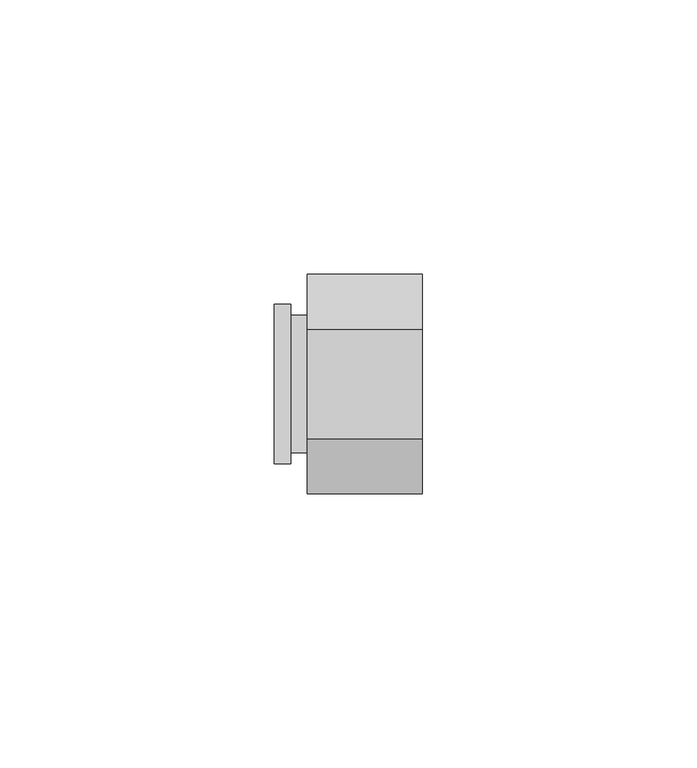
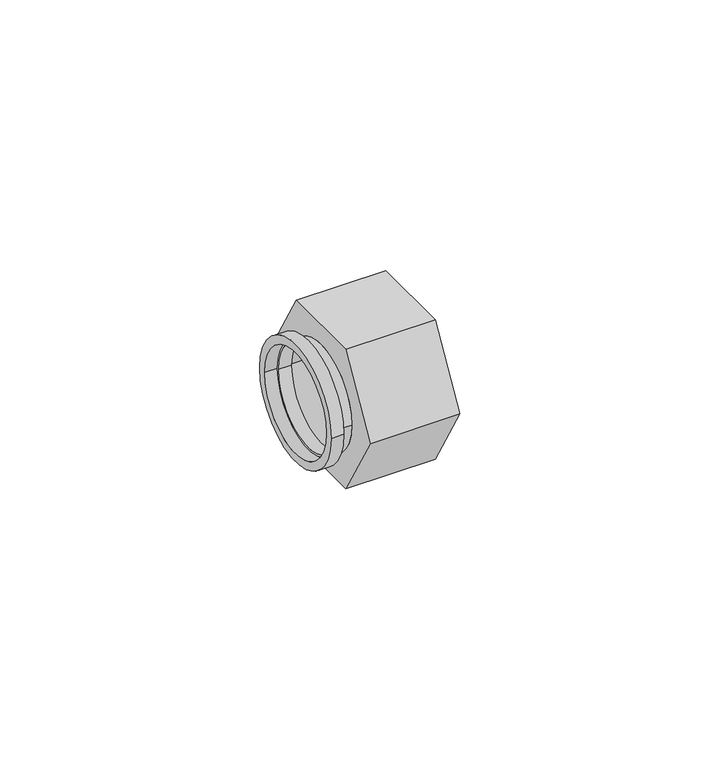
"""IFC4 building model written with IfcOpenShell, lengths in millimetres: pipe fitting geometry, БИР ПЕКС_КМП_Соединитель_Резьба_Наружная : Соединитель прямой с наружной резьбой_КМП."""

from ifc_helpers import new_model, si_unit, point, frame, origin, origin_2d, place, context, project, spatial, polyline, circle_curve, trimmed, segment, composite_curve, outline, extrude, source, transform, mapped, element, save


def pipe_fitting_011efccd(model_context):
    return source(origin(), model_context, "Body", "SweptSolid", [
        extrude(outline(polyline([(-10.0, -17.3205081), (-20.0, 0.0), (-10.0, 17.3205081), (10.0, 17.3205081), (20.0, 0.0), (10.0, -17.3205081), (-10.0, -17.3205081)]), holes=[composite_curve([segment(trimmed(circle_curve(origin_2d(), 12.5), [point((-12.5, 0.0))], [point((12.5, 0.0))], True, "CARTESIAN"), True, "CONTINUOUS"), segment(trimmed(circle_curve(origin_2d(), 12.5), [point((12.5, 0.0))], [point((-12.5, 0.0))], True, "CARTESIAN"), True, "CONTINUOUS")], self_intersect=False)]), frame((0.0, 0.0, 0.0), z_axis=(1.0, 0.0, 0.0), x_axis=(0.0, 1.0, 0.0)), (0.0, 0.0, 1.0), 21.0),
        extrude(outline(composite_curve([segment(trimmed(circle_curve(origin_2d(), 12.5), [point((-12.5, 0.0))], [point((12.5, 0.0))], False, "CARTESIAN"), True, "CONTINUOUS"), segment(trimmed(circle_curve(origin_2d(), 12.5), [point((12.5, 0.0))], [point((-12.5, 0.0))], False, "CARTESIAN"), True, "CONTINUOUS")], self_intersect=False), holes=[composite_curve([segment(trimmed(circle_curve(origin_2d(), 12.0), [point((-12.0, 0.0))], [point((12.0, 0.0))], True, "CARTESIAN"), True, "CONTINUOUS"), segment(trimmed(circle_curve(origin_2d(), 12.0), [point((12.0, 0.0))], [point((-12.0, 0.0))], True, "CARTESIAN"), True, "CONTINUOUS")], self_intersect=False)]), frame((-3.0, 0.0, 0.0), z_axis=(1.0, 0.0, 0.0), x_axis=(0.0, 1.0, 0.0)), (0.0, 0.0, 1.0), 3.0),
        extrude(outline(composite_curve([segment(trimmed(circle_curve(origin_2d(), 14.5), [point((-14.5, 0.0))], [point((14.5, 0.0))], False, "CARTESIAN"), True, "CONTINUOUS"), segment(trimmed(circle_curve(origin_2d(), 14.5), [point((14.5, 0.0))], [point((-14.5, 0.0))], False, "CARTESIAN"), True, "CONTINUOUS")], self_intersect=False), holes=[composite_curve([segment(trimmed(circle_curve(origin_2d(), 12.5), [point((-12.5, 0.0))], [point((12.5, 0.0))], True, "CARTESIAN"), True, "CONTINUOUS"), segment(trimmed(circle_curve(origin_2d(), 12.5), [point((12.5, 0.0))], [point((-12.5, 0.0))], True, "CARTESIAN"), True, "CONTINUOUS")], self_intersect=False)]), frame((-6.0, 0.0, 0.0), z_axis=(1.0, 0.0, 0.0), x_axis=(0.0, 1.0, 0.0)), (0.0, 0.0, 1.0), 3.0),
    ])


if __name__ == "__main__":
    model = new_model("IFC4")
    model_context = context("Model", 3, world=origin())
    ifc_project = project(units=[si_unit("LENGTHUNIT", "METRE", prefix="MILLI")], contexts=[model_context])
    site = spatial("IfcSite", under=ifc_project)
    building = spatial("IfcBuilding", under=site)
    placement = place(None, origin())
    pipe_fitting_shape = pipe_fitting_011efccd(model_context)
    element("IfcPipeFitting", 1, ObjectType="БИР ПЕКС_КМП_Соединитель_Резьба_Наружная : Соединитель прямой с наружной резьбой_КМП", at=placement, inside=building, context=model_context, shape_type="MappedRepresentation", body=[
        mapped(pipe_fitting_shape, transform((0.0, 0.0, 0.0), x_axis=(1.0, 0.0, 0.0), y_axis=(0.0, 1.0, 0.0), z_axis=(0.0, 0.0, 1.0))),
    ])
    save(model, "model.ifc")
